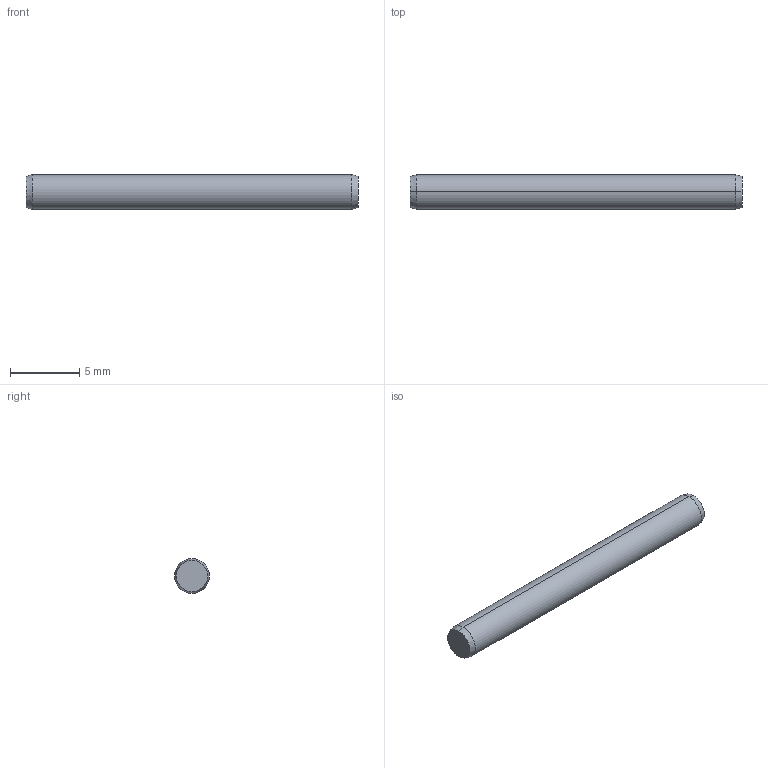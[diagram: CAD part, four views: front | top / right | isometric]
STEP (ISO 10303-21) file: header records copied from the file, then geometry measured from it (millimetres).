
FILE_DESCRIPTION (( 'STEP AP203' ), '1' );
FILE_NAME ('P1206.025-024.step', '2017-06-14T08:01:44', ( 'User' ), ( '' ), 'SwSTEP 2.0', 'SolidWorks 2009', '' );
FILE_SCHEMA (( 'CONFIG_CONTROL_DESIGN' ));
Length unit declared in the file: millimetre
Products named in the file (1): P1206.025-024
Bounding box: 24 x 2.5 x 2.5 mm (x, y, z)
Volume: 117.4 mm3; surface area: 196.4 mm2
Topology: 1 solids, 1 shells, 8 faces, 14 edges, 8 vertices
Faces by surface type: cone 4, cylinder 2, plane 2
Entity records: 271 total; most frequent: DIRECTION 40, CARTESIAN_POINT 31, ORIENTED_EDGE 28, AXIS2_PLACEMENT_3D 17, EDGE_CURVE 14, FACE_OUTER_BOUND 8, PERSON_AND_ORGANIZATION 8, CIRCLE 8
